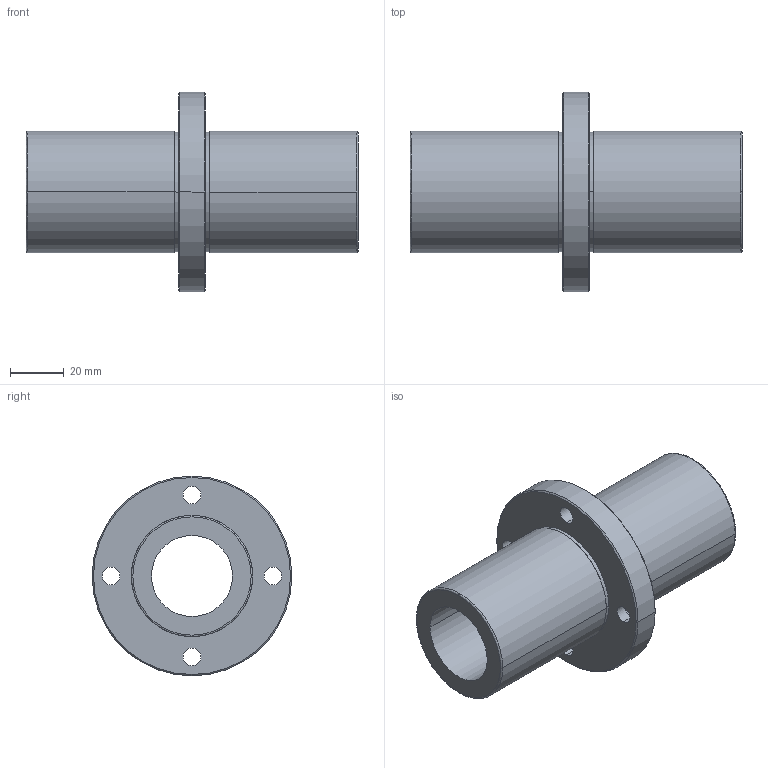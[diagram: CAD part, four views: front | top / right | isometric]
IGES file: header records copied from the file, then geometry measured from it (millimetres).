
Start section: 3D InterOp IGES (Version 21 0 1), Spatial Corp. Copyright (c) 1999-2007.
Global section: file name: NFCD-30VLUU.igs; native system: Spatial Corp.; preprocessor: 3D InterOp GENERIC/IGES 3.0; author: Noname; organization: Noname; date: 20220308.131835; units: millimetre
Bounding box: 123 x 74 x 74 mm (x, y, z)
Surface area: 37914.7 mm2 (no closed solid volume)
Topology: 0 solids, 0 shells, 46 faces, 210 edges, 210 vertices
Faces by surface type: revolution 36, extrusion 10
